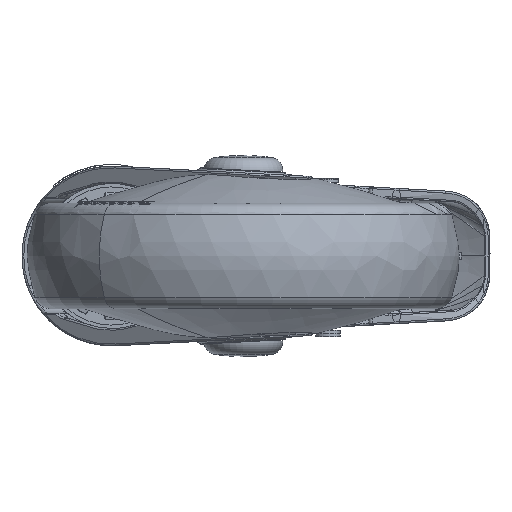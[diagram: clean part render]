
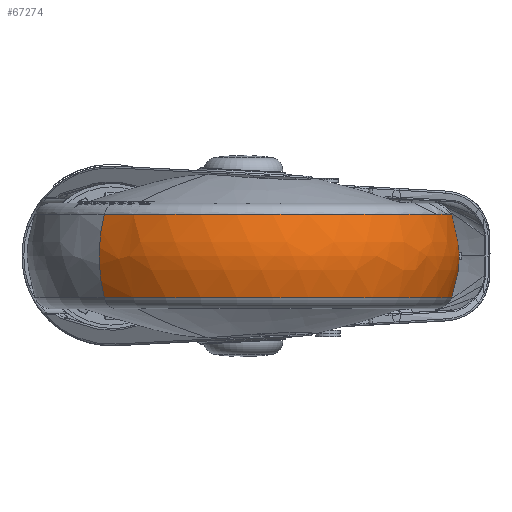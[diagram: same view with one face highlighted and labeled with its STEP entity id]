
A CAD part, front view. The second image highlights one B-rep face of the part: STEP entity #67274.
In plain terms, the highlighted free-form (B-spline) face has degree [3, 3] with [7, 4] control points.
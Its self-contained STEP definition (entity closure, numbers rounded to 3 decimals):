
#62352=CARTESIAN_POINT('',(38.,-82.3,12.017));
#62353=DIRECTION('',(0.,0.,1.));
#62354=DIRECTION('',(-0.667,-0.745,0.));
#62355=AXIS2_PLACEMENT_3D('',#62352,#62353,#62354);
#62357=CARTESIAN_POINT('',(57.001,-61.058,0.));
#62358=DIRECTION('',(0.745,-0.667,0.));
#62359=DIRECTION('',(0.624,0.697,-0.353));
#62360=AXIS2_PLACEMENT_3D('',#62357,#62358,#62359);
#62362=CARTESIAN_POINT('',(38.,-82.3,-12.017));
#62363=DIRECTION('',(0.,0.,1.));
#62364=DIRECTION('',(-0.667,-0.745,0.));
#62365=AXIS2_PLACEMENT_3D('',#62362,#62363,#62364);
#62367=CARTESIAN_POINT('',(18.999,-103.542,0.));
#62368=DIRECTION('',(-0.745,0.667,0.));
#62369=DIRECTION('',(-0.624,-0.697,-0.353));
#62370=AXIS2_PLACEMENT_3D('',#62367,#62368,#62369);
#65860=CARTESIAN_POINT('',(-2.205,-127.248,
12.017));
#65861=CARTESIAN_POINT('',(78.205,-37.352,
12.017));
#65862=VERTEX_POINT('',#65860);
#65863=VERTEX_POINT('',#65861);
#65864=CARTESIAN_POINT('',(-2.205,-127.248,
-12.017));
#65865=CARTESIAN_POINT('',(78.205,-37.352,
-12.017));
#65866=VERTEX_POINT('',#65864);
#65867=VERTEX_POINT('',#65865);
#67237=CARTESIAN_POINT('',(75.194,-35.055,
12.476));
#67238=CARTESIAN_POINT('',(77.174,-32.541,
4.361));
#67239=CARTESIAN_POINT('',(77.174,-32.541,
-4.361));
#67240=CARTESIAN_POINT('',(75.194,-35.055,
-12.476));
#67241=CARTESIAN_POINT('',(104.268,-57.944,
12.476));
#67242=CARTESIAN_POINT('',(107.795,-56.648,
4.361));
#67243=CARTESIAN_POINT('',(107.795,-56.648,
-4.361));
#67244=CARTESIAN_POINT('',(104.268,-57.944,
-12.476));
#67245=CARTESIAN_POINT('',(107.485,-94.807,
12.476));
#67246=CARTESIAN_POINT('',(111.184,-95.473,
4.361));
#67247=CARTESIAN_POINT('',(111.184,-95.473,
-4.361));
#67248=CARTESIAN_POINT('',(107.485,-94.807,
-12.476));
#67249=CARTESIAN_POINT('',(82.816,-122.387,
12.476));
#67250=CARTESIAN_POINT('',(85.202,-124.521,
4.361));
#67251=CARTESIAN_POINT('',(85.202,-124.521,
-4.361));
#67252=CARTESIAN_POINT('',(82.816,-122.387,
-12.476));
#67253=CARTESIAN_POINT('',(58.147,-149.967,
12.476));
#67254=CARTESIAN_POINT('',(59.219,-153.568,
4.361));
#67255=CARTESIAN_POINT('',(59.219,-153.568,
-4.361));
#67256=CARTESIAN_POINT('',(58.147,-149.967,
-12.476));
#67257=CARTESIAN_POINT('',(21.154,-150.863,
12.476));
#67258=CARTESIAN_POINT('',(20.258,-154.513,
4.361));
#67259=CARTESIAN_POINT('',(20.258,-154.513,
-4.361));
#67260=CARTESIAN_POINT('',(21.154,-150.863,
-12.476));
#67261=CARTESIAN_POINT('',(-4.822,-124.511,
12.476));
#67262=CARTESIAN_POINT('',(-7.101,-126.757,
4.361));
#67263=CARTESIAN_POINT('',(-7.101,-126.757,
-4.361));
#67264=CARTESIAN_POINT('',(-4.822,-124.511,
-12.476));
#67265=(BOUNDED_SURFACE()B_SPLINE_SURFACE(3,3,((#67237,#67238,#67239,#67240),(
#67241,#67242,#67243,#67244),(#67245,#67246,#67247,#67248),(#67249,#67250,
#67251,#67252),(#67253,#67254,#67255,#67256),(#67257,#67258,#67259,#67260),(
#67261,#67262,#67263,#67264)),.UNSPECIFIED.,.F.,.F.,.F.)B_SPLINE_SURFACE_WITH_KNOTS((4,3,4),(4,4),(0.,1.,2.),(0.,1.),.UNSPECIFIED.)GEOMETRIC_REPRESENTATION_ITEM()RATIONAL_B_SPLINE_SURFACE(((1.23,1.173,
1.173,1.23),(0.971,0.926,
0.926,0.971),(0.971,0.926,
0.926,0.971),(1.23,1.173,
1.173,1.23),(0.971,0.926,
0.926,0.971),(0.971,0.926,
0.926,0.971),(1.23,1.173,
1.173,1.23)))REPRESENTATION_ITEM('')SURFACE());
#67267=ORIENTED_EDGE('',*,*,#67266,.T.);
#67268=ORIENTED_EDGE('',*,*,#66834,.F.);
#67270=ORIENTED_EDGE('',*,*,#67269,.F.);
#67271=ORIENTED_EDGE('',*,*,#66830,.T.);
#67272=EDGE_LOOP('',(#67267,#67268,#67270,#67271));
#67273=FACE_OUTER_BOUND('',#67272,.F.);
#62356=CIRCLE('',#62355,60.305);
#62361=CIRCLE('',#62360,34.);
#62366=CIRCLE('',#62365,60.305);
#62371=CIRCLE('',#62370,34.);
#66830=EDGE_CURVE('',#65866,#65862,#62371,.T.);
#66834=EDGE_CURVE('',#65867,#65863,#62361,.T.);
#67266=EDGE_CURVE('',#65862,#65863,#62356,.T.);
#67269=EDGE_CURVE('',#65866,#65867,#62366,.T.);
#67274=ADVANCED_FACE('',(#67273),#67265,.T.);
